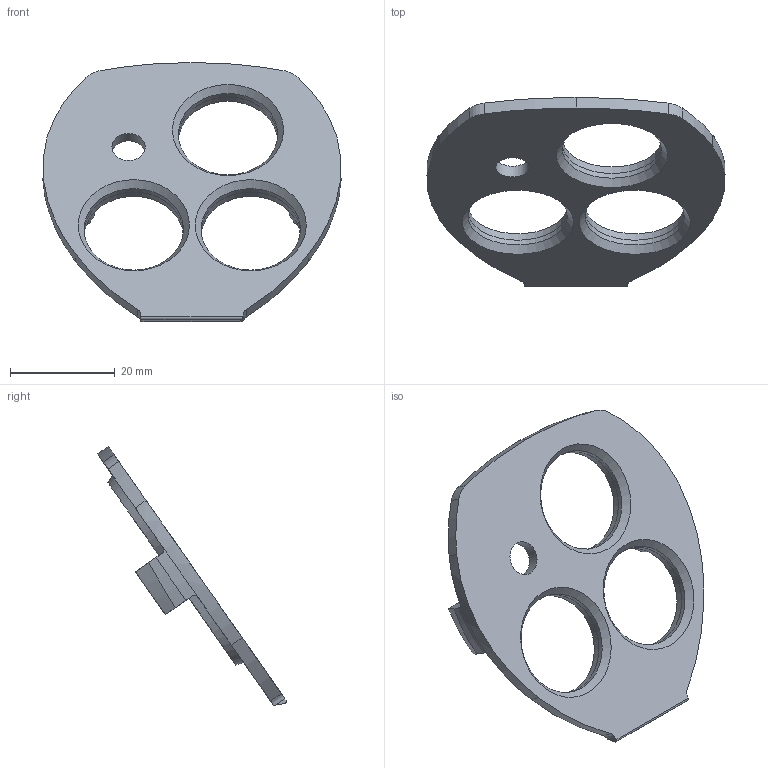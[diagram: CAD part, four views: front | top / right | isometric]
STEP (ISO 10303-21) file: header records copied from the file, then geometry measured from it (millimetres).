
FILE_DESCRIPTION(/* description */ (''),/* implementation_level */ '2;1');
FILE_NAME(/* name */ 'LAST_Grip 01.stp',/* time_stamp */ '2025-11-19T21:08:56+09:00',/* author */ (''),/* organization */ (''),/* preprocessor_version */ 'ST-DEVELOPER v11',/* originating_system */ 'SIEMENS PLM Software NX 7.5',/* authorisation */ '');
FILE_SCHEMA (('CONFIG_CONTROL_DESIGN'));
Length unit declared in the file: millimetre
Products named in the file (1): gyun8741ynv0
Bounding box: 56.99 x 36.11 x 49.53 mm (x, y, z)
Volume: 5711.9 mm3; surface area: 5586.5 mm2
Topology: 1 solids, 1 shells, 60 faces, 161 edges, 108 vertices
Faces by surface type: plane 20, bspline 17, cylinder 15, cone 8
Full cylindrical faces by diameter (mm): 3 x2, 6.35 x1, 19.02 x6
Entity records: 2111 total; most frequent: CARTESIAN_POINT 734, ORIENTED_EDGE 276, DIRECTION 215, EDGE_CURVE 138, VERTEX_POINT 100, EDGE_LOOP 88, AXIS2_PLACEMENT_3D 88, ADVANCED_FACE 60
